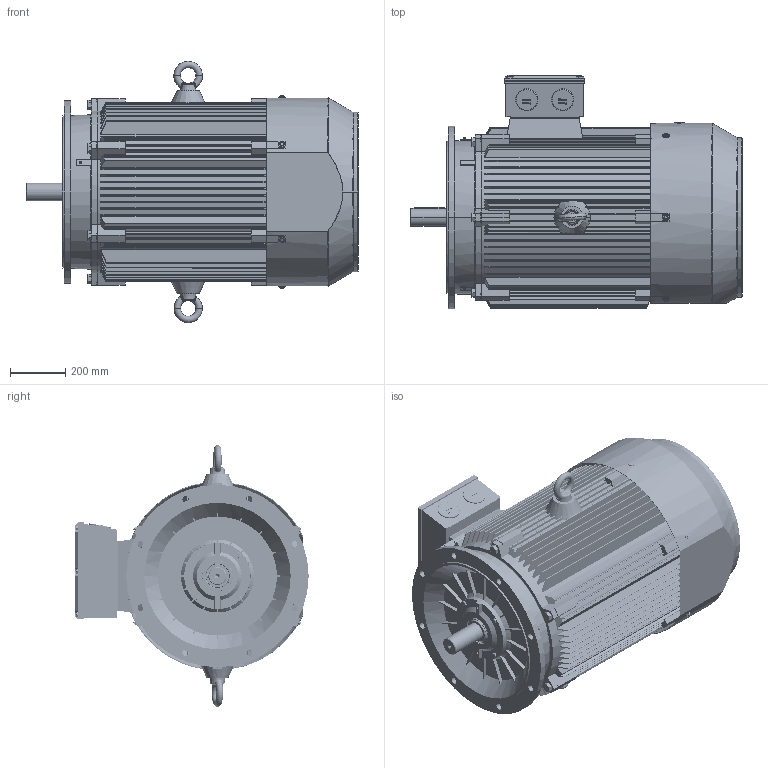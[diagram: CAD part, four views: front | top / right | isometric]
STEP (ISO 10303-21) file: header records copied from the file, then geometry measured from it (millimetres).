
FILE_DESCRIPTION (( 'STEP AP214' ), '1' );
FILE_NAME ('BCT3110.31A205.11.STEP', '2020-04-23T10:01:13', ( '' ), ( '' ), 'SwSTEP 2.0', 'SolidWorks 2019', '' );
FILE_SCHEMA (( 'AUTOMOTIVE_DESIGN' ));
Length unit declared in the file: millimetre
Products named in the file (1): BCT3110.31A205.11
Bounding box: 1201 x 844 x 946 mm (x, y, z)
Volume: 54557640.5 mm3; surface area: 11485007.4 mm2
Topology: 45 solids, 45 shells, 7939 faces, 22489 edges, 14803 vertices
Faces by surface type: plane 3998, cylinder 3118, cone 470, torus 240, bspline 109, sphere 4
Entity records: 292888 total; most frequent: CARTESIAN_POINT 82011, ORIENTED_EDGE 44950, DIRECTION 43079, EDGE_CURVE 22475, AXIS2_PLACEMENT_3D 14933, VERTEX_POINT 14801, LINE 13213, VECTOR 13213
